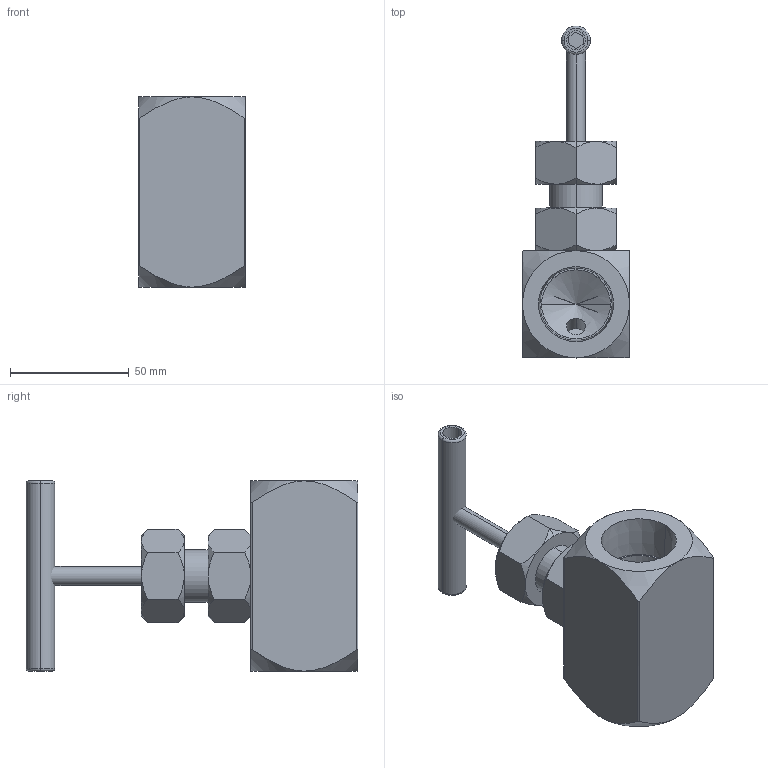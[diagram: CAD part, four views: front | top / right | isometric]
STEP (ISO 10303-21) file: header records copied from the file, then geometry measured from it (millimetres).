
FILE_DESCRIPTION (( 'STEP AP203' ), '1' );
FILE_NAME ('NV-0060-W012-1.STEP', '2018-10-25T05:52:30', ( '' ), ( '' ), 'SwSTEP 2.0', 'SolidWorks 2012', '' );
FILE_SCHEMA (( 'CONFIG_CONTROL_DESIGN' ));
Length unit declared in the file: millimetre
Products named in the file (1): NV-0060-W012-1
Bounding box: 45 x 139.5 x 80 mm (x, y, z)
Volume: 165815.6 mm3; surface area: 36468.1 mm2
Topology: 3 solids, 3 shells, 112 faces, 244 edges, 143 vertices
Faces by surface type: cone 46, plane 38, cylinder 24, torus 4
Entity records: 3735 total; most frequent: CARTESIAN_POINT 1340, ORIENTED_EDGE 474, DIRECTION 474, EDGE_CURVE 237, AXIS2_PLACEMENT_3D 201, VERTEX_POINT 143, EDGE_LOOP 124, FACE_OUTER_BOUND 112
